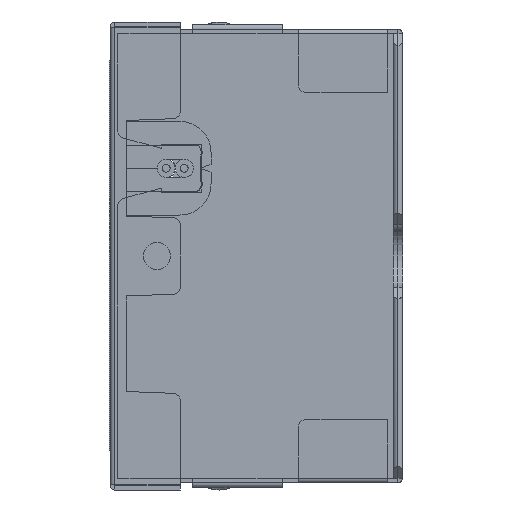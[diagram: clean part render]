
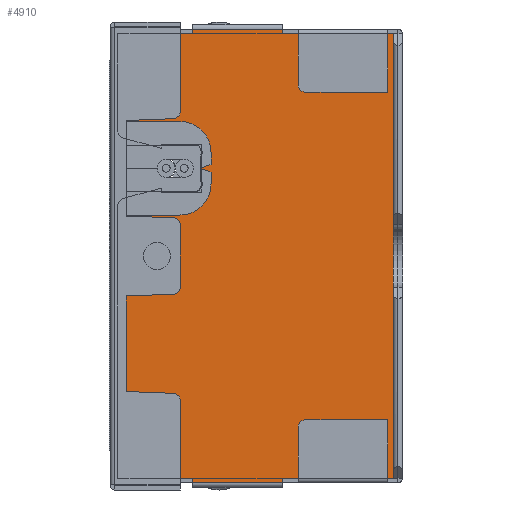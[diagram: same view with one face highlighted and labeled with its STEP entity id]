
A CAD part, left-side view. The second image highlights one B-rep face of the part: STEP entity #4910.
In plain terms, the highlighted planar face has unit normal (-1, 0, 0).
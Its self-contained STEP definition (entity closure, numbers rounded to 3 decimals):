
#19=CARTESIAN_POINT('',(-68.7,6.433,-34.9));
#20=DIRECTION('',(1.,0.,0.));
#21=DIRECTION('',(0.,0.,-1.));
#22=AXIS2_PLACEMENT_3D('',#19,#20,#21);
#24=DIRECTION('',(0.,0.259,0.966));
#25=VECTOR('',#24,5.03);
#26=CARTESIAN_POINT('',(-68.7,7.399,-35.159));
#27=LINE('',#26,#25);
#28=DIRECTION('',(0.,0.259,-0.966));
#29=VECTOR('',#28,5.03);
#30=CARTESIAN_POINT('',(-68.7,13.8,-30.3));
#31=LINE('',#30,#29);
#32=CARTESIAN_POINT('',(-68.7,16.067,-34.9));
#33=DIRECTION('',(1.,0.,0.));
#34=DIRECTION('',(0.,-0.966,-0.259));
#35=AXIS2_PLACEMENT_3D('',#32,#33,#34);
#37=DIRECTION('',(0.,1.,0.));
#38=VECTOR('',#37,0.6);
#39=CARTESIAN_POINT('',(-68.7,28.5,-26.3));
#40=LINE('',#39,#38);
#41=DIRECTION('',(0.,-1.,0.));
#42=VECTOR('',#41,0.6);
#43=CARTESIAN_POINT('',(-68.7,29.1,-14.8));
#44=LINE('',#43,#42);
#45=DIRECTION('',(0.,-1.,0.));
#46=VECTOR('',#45,0.6);
#47=CARTESIAN_POINT('',(-68.7,-28.5,-14.8));
#48=LINE('',#47,#46);
#49=DIRECTION('',(0.,1.,0.));
#50=VECTOR('',#49,0.6);
#51=CARTESIAN_POINT('',(-68.7,-29.1,-26.3));
#52=LINE('',#51,#50);
#53=CARTESIAN_POINT('',(-68.7,0.,-30.9));
#54=DIRECTION('',(-1.,0.,0.));
#55=DIRECTION('',(0.,1.,0.));
#56=AXIS2_PLACEMENT_3D('',#53,#54,#55);
#58=CARTESIAN_POINT('',(-68.7,0.,-30.9));
#59=DIRECTION('',(-1.,0.,0.));
#60=DIRECTION('',(0.,0.,-1.));
#61=AXIS2_PLACEMENT_3D('',#58,#59,#60);
#63=CARTESIAN_POINT('',(-68.7,0.,-30.9));
#64=DIRECTION('',(-1.,0.,0.));
#65=DIRECTION('',(0.,-1.,0.));
#66=AXIS2_PLACEMENT_3D('',#63,#64,#65);
#68=CARTESIAN_POINT('',(-68.7,0.,-30.9));
#69=DIRECTION('',(-1.,0.,0.));
#70=DIRECTION('',(0.,0.,1.));
#71=AXIS2_PLACEMENT_3D('',#68,#69,#70);
#171=DIRECTION('',(0.,-1.,0.));
#172=VECTOR('',#171,34.933);
#173=CARTESIAN_POINT('',(-68.7,6.433,-35.9));
#174=LINE('',#173,#172);
#179=DIRECTION('',(0.,0.,1.));
#180=VECTOR('',#179,9.6);
#181=CARTESIAN_POINT('',(-68.7,-28.5,-35.9));
#182=LINE('',#181,#180);
#204=DIRECTION('',(0.,0.,1.));
#205=VECTOR('',#204,11.5);
#206=CARTESIAN_POINT('',(-68.7,-29.1,-26.3));
#207=LINE('',#206,#205);
#259=DIRECTION('',(0.,0.,1.));
#260=VECTOR('',#259,14.2);
#261=CARTESIAN_POINT('',(-68.7,-28.5,-14.8));
#262=LINE('',#261,#260);
#2707=DIRECTION('',(0.,1.,0.));
#2708=VECTOR('',#2707,57.);
#2709=CARTESIAN_POINT('',(-68.7,-28.5,-0.6));
#2710=LINE('',#2709,#2708);
#2782=DIRECTION('',(0.,0.,-1.));
#2783=VECTOR('',#2782,14.2);
#2784=CARTESIAN_POINT('',(-68.7,28.5,-0.6));
#2785=LINE('',#2784,#2783);
#2807=DIRECTION('',(0.,0.,-1.));
#2808=VECTOR('',#2807,11.5);
#2809=CARTESIAN_POINT('',(-68.7,29.1,-14.8));
#2810=LINE('',#2809,#2808);
#2874=DIRECTION('',(0.,0.,-1.));
#2875=VECTOR('',#2874,9.6);
#2876=CARTESIAN_POINT('',(-68.7,28.5,-26.3));
#2877=LINE('',#2876,#2875);
#2886=DIRECTION('',(0.,-1.,0.));
#2887=VECTOR('',#2886,12.433);
#2888=CARTESIAN_POINT('',(-68.7,28.5,-35.9));
#2889=LINE('',#2888,#2887);
#2902=DIRECTION('',(0.,1.,0.));
#2903=VECTOR('',#2902,0.5);
#2904=CARTESIAN_POINT('',(-68.7,13.8,-30.3));
#2905=LINE('',#2904,#2903);
#2910=DIRECTION('',(0.,0.,1.));
#2911=VECTOR('',#2910,5.15);
#2912=CARTESIAN_POINT('',(-68.7,14.3,-30.3));
#2913=LINE('',#2912,#2911);
#2918=DIRECTION('',(0.,-1.,0.));
#2919=VECTOR('',#2918,6.1);
#2920=CARTESIAN_POINT('',(-68.7,14.3,-25.15));
#2921=LINE('',#2920,#2919);
#2926=DIRECTION('',(0.,0.,-1.));
#2927=VECTOR('',#2926,5.15);
#2928=CARTESIAN_POINT('',(-68.7,8.2,-25.15));
#2929=LINE('',#2928,#2927);
#2934=DIRECTION('',(0.,1.,0.));
#2935=VECTOR('',#2934,0.5);
#2936=CARTESIAN_POINT('',(-68.7,8.2,-30.3));
#2937=LINE('',#2936,#2935);
#3803=CARTESIAN_POINT('',(-68.7,1.75,-30.9));
#3804=CARTESIAN_POINT('',(-68.7,0.,-32.65));
#3805=VERTEX_POINT('',#3803);
#3806=VERTEX_POINT('',#3804);
#3807=CARTESIAN_POINT('',(-68.7,-1.75,-30.9));
#3808=VERTEX_POINT('',#3807);
#3809=CARTESIAN_POINT('',(-68.7,6.433,-35.9));
#3810=CARTESIAN_POINT('',(-68.7,7.399,-35.159));
#3811=VERTEX_POINT('',#3809);
#3812=VERTEX_POINT('',#3810);
#3813=CARTESIAN_POINT('',(-68.7,8.7,-30.3));
#3814=VERTEX_POINT('',#3813);
#3815=CARTESIAN_POINT('',(-68.7,8.2,-30.3));
#3816=VERTEX_POINT('',#3815);
#3817=CARTESIAN_POINT('',(-68.7,8.2,-25.15));
#3818=VERTEX_POINT('',#3817);
#3819=CARTESIAN_POINT('',(-68.7,14.3,-25.15));
#3820=VERTEX_POINT('',#3819);
#3821=CARTESIAN_POINT('',(-68.7,14.3,-30.3));
#3822=VERTEX_POINT('',#3821);
#3823=CARTESIAN_POINT('',(-68.7,13.8,-30.3));
#3824=VERTEX_POINT('',#3823);
#3825=CARTESIAN_POINT('',(-68.7,15.101,-35.159));
#3826=VERTEX_POINT('',#3825);
#3827=CARTESIAN_POINT('',(-68.7,16.067,-35.9));
#3828=VERTEX_POINT('',#3827);
#3829=CARTESIAN_POINT('',(-68.7,28.5,-35.9));
#3830=VERTEX_POINT('',#3829);
#3831=CARTESIAN_POINT('',(-68.7,28.5,-26.3));
#3832=VERTEX_POINT('',#3831);
#3833=CARTESIAN_POINT('',(-68.7,29.1,-26.3));
#3834=VERTEX_POINT('',#3833);
#3835=CARTESIAN_POINT('',(-68.7,29.1,-14.8));
#3836=VERTEX_POINT('',#3835);
#3837=CARTESIAN_POINT('',(-68.7,28.5,-14.8));
#3838=VERTEX_POINT('',#3837);
#3839=CARTESIAN_POINT('',(-68.7,28.5,-0.6));
#3840=VERTEX_POINT('',#3839);
#3841=CARTESIAN_POINT('',(-68.7,-28.5,-0.6));
#3842=VERTEX_POINT('',#3841);
#3843=CARTESIAN_POINT('',(-68.7,-28.5,-14.8));
#3844=VERTEX_POINT('',#3843);
#3845=CARTESIAN_POINT('',(-68.7,-29.1,-14.8));
#3846=VERTEX_POINT('',#3845);
#3847=CARTESIAN_POINT('',(-68.7,-29.1,-26.3));
#3848=VERTEX_POINT('',#3847);
#3849=CARTESIAN_POINT('',(-68.7,-28.5,-26.3));
#3850=VERTEX_POINT('',#3849);
#3851=CARTESIAN_POINT('',(-68.7,-28.5,-35.9));
#3852=VERTEX_POINT('',#3851);
#3853=CARTESIAN_POINT('',(-68.7,0.,-29.15));
#3854=VERTEX_POINT('',#3853);
#4851=CARTESIAN_POINT('',(-68.7,-28.5,0.));
#4852=DIRECTION('',(1.,0.,0.));
#4853=DIRECTION('',(0.,-1.,0.));
#4854=AXIS2_PLACEMENT_3D('',#4851,#4852,#4853);
#4855=PLANE('',#4854);
#4857=ORIENTED_EDGE('',*,*,#4856,.T.);
#4859=ORIENTED_EDGE('',*,*,#4858,.T.);
#4861=ORIENTED_EDGE('',*,*,#4860,.F.);
#4863=ORIENTED_EDGE('',*,*,#4862,.F.);
#4865=ORIENTED_EDGE('',*,*,#4864,.F.);
#4867=ORIENTED_EDGE('',*,*,#4866,.F.);
#4869=ORIENTED_EDGE('',*,*,#4868,.F.);
#4871=ORIENTED_EDGE('',*,*,#4870,.T.);
#4873=ORIENTED_EDGE('',*,*,#4872,.T.);
#4875=ORIENTED_EDGE('',*,*,#4874,.F.);
#4877=ORIENTED_EDGE('',*,*,#4876,.F.);
#4879=ORIENTED_EDGE('',*,*,#4878,.T.);
#4881=ORIENTED_EDGE('',*,*,#4880,.F.);
#4883=ORIENTED_EDGE('',*,*,#4882,.T.);
#4885=ORIENTED_EDGE('',*,*,#4884,.F.);
#4887=ORIENTED_EDGE('',*,*,#4886,.F.);
#4889=ORIENTED_EDGE('',*,*,#4888,.F.);
#4891=ORIENTED_EDGE('',*,*,#4890,.T.);
#4893=ORIENTED_EDGE('',*,*,#4892,.F.);
#4895=ORIENTED_EDGE('',*,*,#4894,.T.);
#4897=ORIENTED_EDGE('',*,*,#4896,.F.);
#4899=ORIENTED_EDGE('',*,*,#4898,.F.);
#4900=EDGE_LOOP('',(#4857,#4859,#4861,#4863,#4865,#4867,#4869,#4871,#4873,#4875,
#4877,#4879,#4881,#4883,#4885,#4887,#4889,#4891,#4893,#4895,#4897,#4899));
#4901=FACE_OUTER_BOUND('',#4900,.F.);
#4902=ORIENTED_EDGE('',*,*,#4840,.T.);
#4903=ORIENTED_EDGE('',*,*,#4838,.T.);
#4905=ORIENTED_EDGE('',*,*,#4904,.T.);
#4907=ORIENTED_EDGE('',*,*,#4906,.T.);
#4908=EDGE_LOOP('',(#4902,#4903,#4905,#4907));
#4909=FACE_BOUND('',#4908,.F.);
#4910=ADVANCED_FACE('',(#4901,#4909),#4855,.F.);
#23=CIRCLE('',#22,1.);
#36=CIRCLE('',#35,1.);
#57=CIRCLE('',#56,1.75);
#62=CIRCLE('',#61,1.75);
#67=CIRCLE('',#66,1.75);
#72=CIRCLE('',#71,1.75);
#4838=EDGE_CURVE('',#3806,#3808,#62,.T.);
#4840=EDGE_CURVE('',#3805,#3806,#57,.T.);
#4856=EDGE_CURVE('',#3811,#3812,#23,.T.);
#4858=EDGE_CURVE('',#3812,#3814,#27,.T.);
#4860=EDGE_CURVE('',#3816,#3814,#2937,.T.);
#4862=EDGE_CURVE('',#3818,#3816,#2929,.T.);
#4864=EDGE_CURVE('',#3820,#3818,#2921,.T.);
#4866=EDGE_CURVE('',#3822,#3820,#2913,.T.);
#4868=EDGE_CURVE('',#3824,#3822,#2905,.T.);
#4870=EDGE_CURVE('',#3824,#3826,#31,.T.);
#4872=EDGE_CURVE('',#3826,#3828,#36,.T.);
#4874=EDGE_CURVE('',#3830,#3828,#2889,.T.);
#4876=EDGE_CURVE('',#3832,#3830,#2877,.T.);
#4878=EDGE_CURVE('',#3832,#3834,#40,.T.);
#4880=EDGE_CURVE('',#3836,#3834,#2810,.T.);
#4882=EDGE_CURVE('',#3836,#3838,#44,.T.);
#4884=EDGE_CURVE('',#3840,#3838,#2785,.T.);
#4886=EDGE_CURVE('',#3842,#3840,#2710,.T.);
#4888=EDGE_CURVE('',#3844,#3842,#262,.T.);
#4890=EDGE_CURVE('',#3844,#3846,#48,.T.);
#4892=EDGE_CURVE('',#3848,#3846,#207,.T.);
#4894=EDGE_CURVE('',#3848,#3850,#52,.T.);
#4896=EDGE_CURVE('',#3852,#3850,#182,.T.);
#4898=EDGE_CURVE('',#3811,#3852,#174,.T.);
#4904=EDGE_CURVE('',#3808,#3854,#67,.T.);
#4906=EDGE_CURVE('',#3854,#3805,#72,.T.);
